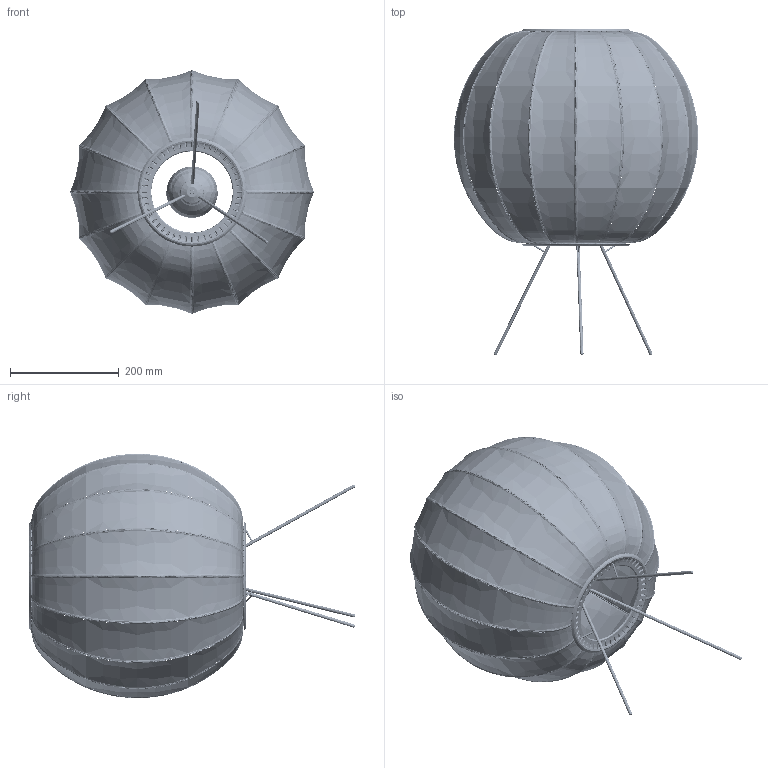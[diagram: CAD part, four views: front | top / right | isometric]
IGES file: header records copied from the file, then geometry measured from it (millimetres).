
Start section: SolidWorks IGES file using analytic representation for surfaces
Global section: file name: J:\Boris Berlin design Dropbox\ISKOS-BERLIN\MADE BY HAND\Knit-Wit\Eksport\20190123_files for architects\Ø45 Floor Low\KNit-wit Floor_45_low.IGS; native system: SolidWorks 2018; preprocessor: SolidWorks 2018; author: Nikolaj; date: 190123.114624; units: millimetre
Bounding box: 450.1 x 601.2 x 450.1 mm (x, y, z)
Surface area: 802119.4 mm2 (no closed solid volume)
Topology: 0 solids, 0 shells, 4576 faces, 47555 edges, 47359 vertices
Faces by surface type: bspline 3349, revolution 1227
